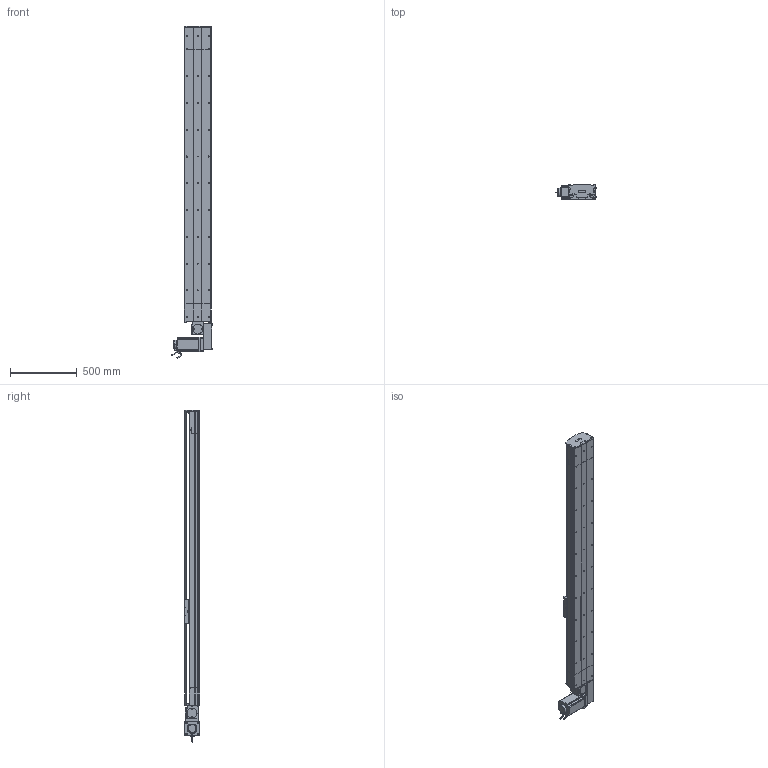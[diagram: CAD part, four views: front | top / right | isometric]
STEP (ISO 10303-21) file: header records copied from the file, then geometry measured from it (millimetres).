
FILE_DESCRIPTION (( 'STEP AP214' ), '1' );
FILE_NAME ('D20 TBH LH S1900.STEP', '2010-07-01T07:43:43', ( 'Conseil Régional Haute-Normandie' ), ( 'Conseil Régional Haute-Normandie' ), 'SwSTEP 2.0', 'SolidWorks 2010', '' );
FILE_SCHEMA (( 'AUTOMOTIVE_DESIGN' ));
Length unit declared in the file: millimetre
Products named in the file (40): clavette; vis M8 L12_Default; tail D20+100_Default; vis M5 L25_Default; vis M5 L12_Default; Couroie tail D20_Default; plaque de  bout tail D20_Default; couvercle tail D20_Default; vis M5 L8 90°_Default; poulie tail D20_Default; corpl tail D20 +100_Default; rail tail D20; tete d''axe poulie D20B; chariot D20B_Default; guide D20B; Chariot D20B; D20 TBH LH S1900; rail head D20; head LH_Default; corp D20 S1900_Default; rail + couroie  D20 S1900; Course B L1900_Default; corpl head D20_Default; couvercle D20 S1900_Default; couvercle head D20_Default; Renvoi LH D20_Default; poulie head D20_Default; cache D20_Default; Moteur motionking 110BLDC170A-640x; couroie_Default; Conecteur_Default; avant 110BLDC170A-630x; codeur 110BLDC170A-630x; cache arbre D20_Default; vis M5 L70_Default; plaque de  bout head D20B LH_Default; Conecteur2_Default; Plaque racord D20LH_Default; vis M5 L5_Default; corps 110BLDC170A-630x
Assembly tree (71 placements, depth 4):
  D20 TBH LH S1900
    Course B L1900_Default
      rail + couroie  D20 S1900
      couvercle D20 S1900_Default
      corp D20 S1900_Default
    head LH_Default
      vis M5 L12_Default  x10
      corpl head D20_Default
      poulie head D20_Default
      cache D20_Default  x2
      Plaque racord D20LH_Default
      vis M5 L5_Default  x4
      vis M5 L25_Default  x2
      cache arbre D20_Default
      vis M8 L12_Default  x4
      couvercle head D20_Default
      vis M5 L70_Default  x4
      Renvoi LH D20_Default
      rail head D20
      couroie_Default
      Moteur motionking 110BLDC170A-640x
        Conecteur_Default
        Conecteur2_Default
        corps 110BLDC170A-630x
        clavette
        codeur 110BLDC170A-630x
        avant 110BLDC170A-630x
      plaque de  bout head D20B LH_Default
    tail D20+100_Default
      plaque de  bout tail D20_Default
      vis M5 L12_Default  x4
      poulie tail D20_Default
      tete d''axe poulie D20B
      vis M5 L8 90°_Default  x2
      vis M5 L25_Default  x2
      Couroie tail D20_Default
      rail tail D20
      couvercle tail D20_Default
      corpl tail D20 +100_Default
    chariot D20B_Default
      vis M5 L12_Default  x4
      guide D20B  x2
      Chariot D20B
Bounding box: 304.2 x 115.7 x 2480 mm (x, y, z)
Volume: 19596652.2 mm3; surface area: 4708288.7 mm2
Topology: 95 solids, 95 shells, 2779 faces, 7047 edges, 4549 vertices
Faces by surface type: plane 1632, cylinder 823, bspline 136, cone 99, torus 89
Entity records: 88114 total; most frequent: CARTESIAN_POINT 28291, ORIENTED_EDGE 10750, DIRECTION 10142, EDGE_CURVE 5375, VERTEX_POINT 3535, VECTOR 3482, LINE 3482, AXIS2_PLACEMENT_3D 3330
